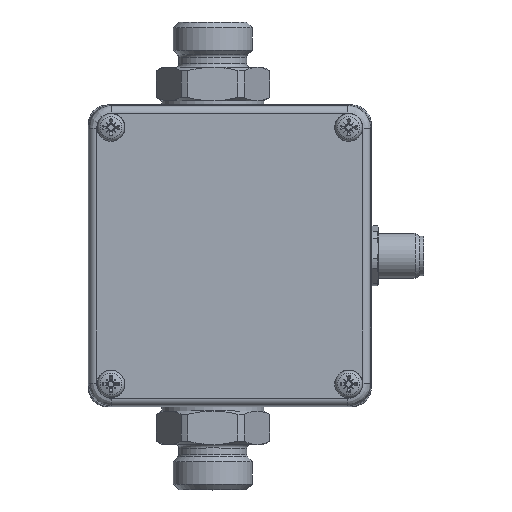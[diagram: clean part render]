
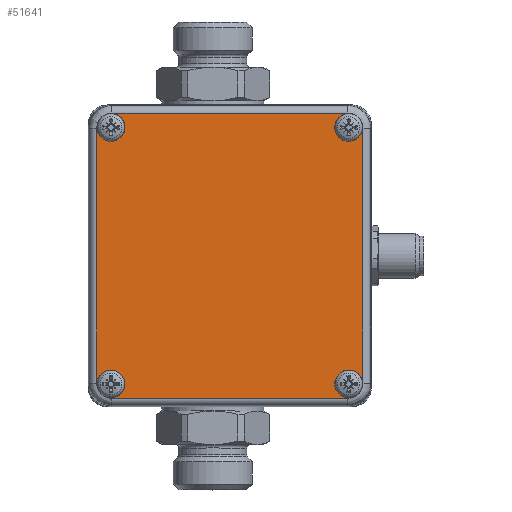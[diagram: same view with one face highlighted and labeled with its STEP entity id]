
A CAD part, top view. The second image highlights one B-rep face of the part: STEP entity #51641.
In plain terms, the highlighted planar face has unit normal (0, 0, 1) by its records, which use the part's own axes.
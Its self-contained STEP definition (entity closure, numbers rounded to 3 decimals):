
#209=ELLIPSE('',#54871,0.4,0.4);
#211=ELLIPSE('',#54874,0.4,0.4);
#212=ELLIPSE('',#54875,0.4,0.4);
#214=ELLIPSE('',#54878,0.4,0.4);
#215=ELLIPSE('',#54883,0.4,0.4);
#217=ELLIPSE('',#54886,0.4,0.4);
#218=ELLIPSE('',#54887,0.4,0.4);
#220=ELLIPSE('',#54890,0.4,0.4);
#2165=LINE('',#80180,#6455);
#2167=LINE('',#80356,#6457);
#2170=LINE('',#80363,#6460);
#2172=LINE('',#80594,#6462);
#6455=VECTOR('',#61154,6.255);
#6457=VECTOR('',#61178,6.755);
#6460=VECTOR('',#61185,6.755);
#6462=VECTOR('',#61205,6.255);
#12987=FACE_OUTER_BOUND('',#16115,.T.);
#16115=EDGE_LOOP('',(#36028,#36029,#36030,#36031,#36032,#36033,#36034,#36035,
#36036,#36037,#36038,#36039,#36040,#36041,#36042,#36043));
#19053=CIRCLE('',#54897,0.37);
#19054=CIRCLE('',#54899,0.37);
#19055=CIRCLE('',#54900,0.37);
#19056=CIRCLE('',#54901,0.37);
#21487=VERTEX_POINT('',#80177);
#21488=VERTEX_POINT('',#80179);
#21490=VERTEX_POINT('',#80254);
#21491=VERTEX_POINT('',#80255);
#21493=VERTEX_POINT('',#80265);
#21494=VERTEX_POINT('',#80338);
#21495=VERTEX_POINT('',#80339);
#21496=VERTEX_POINT('',#80346);
#21499=VERTEX_POINT('',#80354);
#21500=VERTEX_POINT('',#80359);
#21502=VERTEX_POINT('',#80464);
#21503=VERTEX_POINT('',#80465);
#21505=VERTEX_POINT('',#80475);
#21506=VERTEX_POINT('',#80578);
#21507=VERTEX_POINT('',#80579);
#21508=VERTEX_POINT('',#80586);
#26887=EDGE_CURVE('',#21487,#21488,#2165,.T.);
#26891=EDGE_CURVE('',#21491,#21487,#209,.T.);
#26894=EDGE_CURVE('',#21493,#21490,#211,.T.);
#26896=EDGE_CURVE('',#21495,#21496,#212,.T.);
#26899=EDGE_CURVE('',#21488,#21494,#214,.T.);
#26901=EDGE_CURVE('',#21499,#21493,#2167,.T.);
#26905=EDGE_CURVE('',#21496,#21500,#2170,.T.);
#26907=EDGE_CURVE('',#21503,#21499,#215,.T.);
#26910=EDGE_CURVE('',#21505,#21502,#217,.T.);
#26912=EDGE_CURVE('',#21507,#21508,#218,.T.);
#26915=EDGE_CURVE('',#21500,#21506,#220,.T.);
#26917=EDGE_CURVE('',#21508,#21505,#2172,.T.);
#26923=EDGE_CURVE('',#21503,#21502,#19053,.T.);
#26924=EDGE_CURVE('',#21507,#21506,#19054,.T.);
#26925=EDGE_CURVE('',#21495,#21494,#19055,.T.);
#26926=EDGE_CURVE('',#21491,#21490,#19056,.T.);
#36028=ORIENTED_EDGE('',*,*,#26894,.F.);
#36029=ORIENTED_EDGE('',*,*,#26901,.F.);
#36030=ORIENTED_EDGE('',*,*,#26907,.F.);
#36031=ORIENTED_EDGE('',*,*,#26923,.T.);
#36032=ORIENTED_EDGE('',*,*,#26910,.F.);
#36033=ORIENTED_EDGE('',*,*,#26917,.F.);
#36034=ORIENTED_EDGE('',*,*,#26912,.F.);
#36035=ORIENTED_EDGE('',*,*,#26924,.T.);
#36036=ORIENTED_EDGE('',*,*,#26915,.F.);
#36037=ORIENTED_EDGE('',*,*,#26905,.F.);
#36038=ORIENTED_EDGE('',*,*,#26896,.F.);
#36039=ORIENTED_EDGE('',*,*,#26925,.T.);
#36040=ORIENTED_EDGE('',*,*,#26899,.F.);
#36041=ORIENTED_EDGE('',*,*,#26887,.F.);
#36042=ORIENTED_EDGE('',*,*,#26891,.F.);
#36043=ORIENTED_EDGE('',*,*,#26926,.T.);
#47177=PLANE('',#54898);
#51641=ADVANCED_FACE('',(#12987),#47177,.T.);
#54871=AXIS2_PLACEMENT_3D('',#80262,#61158,#61159);
#54874=AXIS2_PLACEMENT_3D('',#80267,#61164,#61165);
#54875=AXIS2_PLACEMENT_3D('',#80347,#61166,#61167);
#54878=AXIS2_PLACEMENT_3D('',#80351,#61172,#61173);
#54883=AXIS2_PLACEMENT_3D('',#80472,#61186,#61187);
#54886=AXIS2_PLACEMENT_3D('',#80477,#61192,#61193);
#54887=AXIS2_PLACEMENT_3D('',#80587,#61194,#61195);
#54890=AXIS2_PLACEMENT_3D('',#80591,#61200,#61201);
#54897=AXIS2_PLACEMENT_3D('',#80605,#61221,#61222);
#54898=AXIS2_PLACEMENT_3D('',#80606,#61223,#61224);
#54899=AXIS2_PLACEMENT_3D('',#80607,#61225,#61226);
#54900=AXIS2_PLACEMENT_3D('',#80608,#61227,#61228);
#54901=AXIS2_PLACEMENT_3D('',#80609,#61229,#61230);
#61154=DIRECTION('',(1.,0.,0.));
#61158=DIRECTION('center_axis',(0.,0.,
-1.));
#61159=DIRECTION('ref_axis',(-0.707,0.707,0.));
#61164=DIRECTION('center_axis',(0.,0.,
-1.));
#61165=DIRECTION('ref_axis',(-0.707,0.707,0.));
#61166=DIRECTION('center_axis',(0.,0.,
-1.));
#61167=DIRECTION('ref_axis',(0.707,0.707,0.));
#61172=DIRECTION('center_axis',(0.,0.,
-1.));
#61173=DIRECTION('ref_axis',(0.707,0.707,0.));
#61178=DIRECTION('',(0.,1.,0.));
#61185=DIRECTION('',(0.,-1.,0.));
#61186=DIRECTION('center_axis',(0.,0.,
-1.));
#61187=DIRECTION('ref_axis',(-0.707,-0.707,0.));
#61192=DIRECTION('center_axis',(0.,0.,
-1.));
#61193=DIRECTION('ref_axis',(-0.707,-0.707,0.));
#61194=DIRECTION('center_axis',(0.,0.,
-1.));
#61195=DIRECTION('ref_axis',(0.707,-0.707,0.));
#61200=DIRECTION('center_axis',(0.,0.,
-1.));
#61201=DIRECTION('ref_axis',(0.707,-0.707,0.));
#61205=DIRECTION('',(-1.,0.,0.));
#61221=DIRECTION('center_axis',(0.,0.,
-1.));
#61222=DIRECTION('ref_axis',(1.,0.,0.));
#61223=DIRECTION('center_axis',(0.,0.,
1.));
#61224=DIRECTION('ref_axis',(-1.,0.,0.));
#61225=DIRECTION('center_axis',(0.,0.,
-1.));
#61226=DIRECTION('ref_axis',(1.,0.,0.));
#61227=DIRECTION('center_axis',(0.,0.,
-1.));
#61228=DIRECTION('ref_axis',(1.,0.,0.));
#61229=DIRECTION('center_axis',(0.,0.,
-1.));
#61230=DIRECTION('ref_axis',(1.,0.,0.));
#80177=CARTESIAN_POINT('',(-3.127,3.777,1.5));
#80179=CARTESIAN_POINT('',(3.127,3.777,1.5));
#80180=CARTESIAN_POINT('',(-3.127,3.777,1.5));
#80254=CARTESIAN_POINT('',(-3.49,3.546,1.5));
#80255=CARTESIAN_POINT('',(-3.296,3.74,1.5));
#80262=CARTESIAN_POINT('Origin',(-3.127,3.377,1.5));
#80265=CARTESIAN_POINT('',(-3.527,3.377,1.5));
#80267=CARTESIAN_POINT('Origin',(-3.127,3.377,1.5));
#80338=CARTESIAN_POINT('',(3.296,3.74,1.5));
#80339=CARTESIAN_POINT('',(3.49,3.546,1.5));
#80346=CARTESIAN_POINT('',(3.527,3.377,1.5));
#80347=CARTESIAN_POINT('Origin',(3.127,3.377,1.5));
#80351=CARTESIAN_POINT('Origin',(3.127,3.377,1.5));
#80354=CARTESIAN_POINT('',(-3.527,-3.377,1.5));
#80356=CARTESIAN_POINT('',(-3.527,-3.377,1.5));
#80359=CARTESIAN_POINT('',(3.527,-3.377,1.5));
#80363=CARTESIAN_POINT('',(3.527,3.377,1.5));
#80464=CARTESIAN_POINT('',(-3.296,-3.74,1.5));
#80465=CARTESIAN_POINT('',(-3.49,-3.546,1.5));
#80472=CARTESIAN_POINT('Origin',(-3.127,-3.377,1.5));
#80475=CARTESIAN_POINT('',(-3.127,-3.777,1.5));
#80477=CARTESIAN_POINT('Origin',(-3.127,-3.377,1.5));
#80578=CARTESIAN_POINT('',(3.49,-3.546,1.5));
#80579=CARTESIAN_POINT('',(3.296,-3.74,1.5));
#80586=CARTESIAN_POINT('',(3.127,-3.777,1.5));
#80587=CARTESIAN_POINT('Origin',(3.127,-3.377,1.5));
#80591=CARTESIAN_POINT('Origin',(3.127,-3.377,1.5));
#80594=CARTESIAN_POINT('',(3.127,-3.777,1.5));
#80605=CARTESIAN_POINT('Origin',(-3.15,-3.4,1.5));
#80606=CARTESIAN_POINT('Origin',(0.,0.,
1.5));
#80607=CARTESIAN_POINT('Origin',(3.15,-3.4,1.5));
#80608=CARTESIAN_POINT('Origin',(3.15,3.4,1.5));
#80609=CARTESIAN_POINT('Origin',(-3.15,3.4,1.5));
